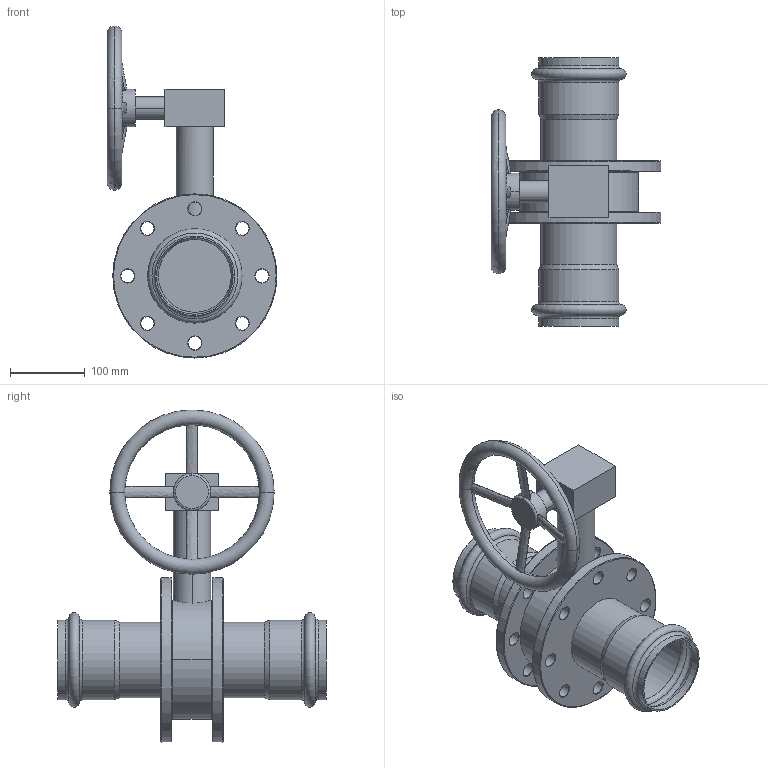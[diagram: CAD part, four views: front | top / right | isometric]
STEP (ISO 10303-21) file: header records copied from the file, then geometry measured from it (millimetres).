
FILE_DESCRIPTION(/* description */ (''),/* implementation_level */ '2;1');
FILE_NAME(/* name */ '51251080101.stp',/* time_stamp */ '2020-06-22T14:23:17+08:00',/* author */ (''),/* organization */ (''),/* preprocessor_version */ 'ST-DEVELOPER v11',/* originating_system */ 'SIEMENS PLM Software NX 7.5',/* authorisation */ '');
FILE_SCHEMA (('CONFIG_CONTROL_DESIGN'));
Length unit declared in the file: millimetre
Products named in the file (1): Admi4F60b41y
Bounding box: 227.6 x 360 x 445 mm (x, y, z)
Volume: 2918915 mm3; surface area: 519198.8 mm2
Topology: 3 solids, 3 shells, 150 faces, 370 edges, 232 vertices
Faces by surface type: cone 48, cylinder 38, torus 32, plane 24, extrusion 8
Full cylindrical faces by diameter (mm): 18 x16, 97.6 x2, 101.6 x2, 102.8 x4, 106.8 x4, 220 x2
Entity records: 4230 total; most frequent: CARTESIAN_POINT 963, DIRECTION 682, ORIENTED_EDGE 500, AXIS2_PLACEMENT_3D 323, EDGE_LOOP 304, FACE_BOUND 276, EDGE_CURVE 250, VERTEX_POINT 216
